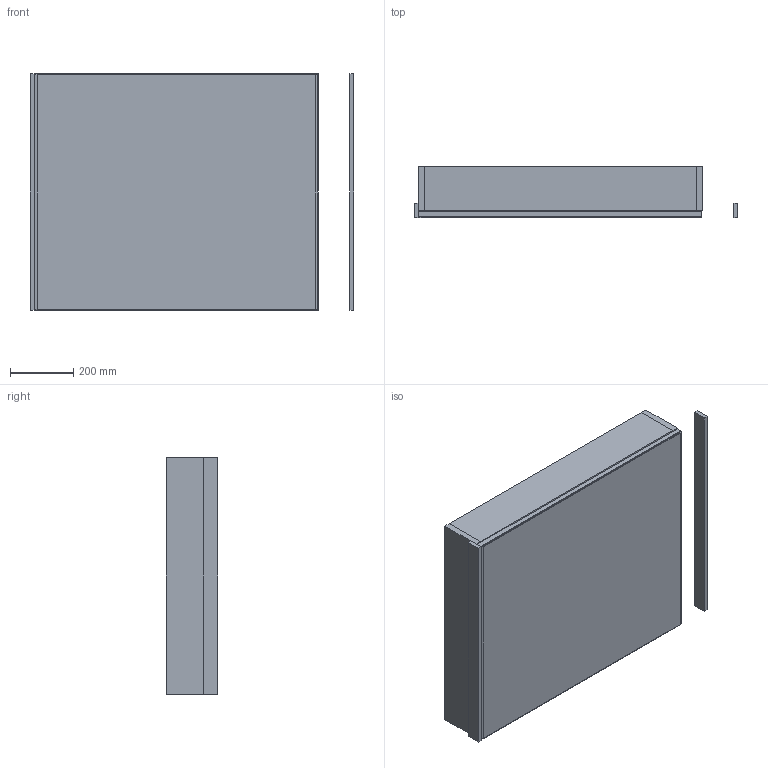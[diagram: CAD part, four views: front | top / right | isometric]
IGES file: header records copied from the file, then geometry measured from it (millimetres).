
Start section: Data from Parasolid IGES Translator 19.0.9, Copyright(c) 2006 Siemens PL M Software. All Rights Reserved.
Global section: file name: noorth-mirror-H 75 D 4,5-16 W 90_9145.igs; native system: By Siemens PLM Incorporated; preprocessor: XPlus GENERIC/IGES 19.0.9; author: Noname; organization: Noname; date: 20200519.112439; units: metre
Bounding box: 1023.82 x 162 x 750 mm (x, y, z)
Volume: 24405314.5 mm3; surface area: 5261139.9 mm2
Topology: 10 solids, 10 shells, 84 faces, 168 edges, 104 vertices
Faces by surface type: plane 84
